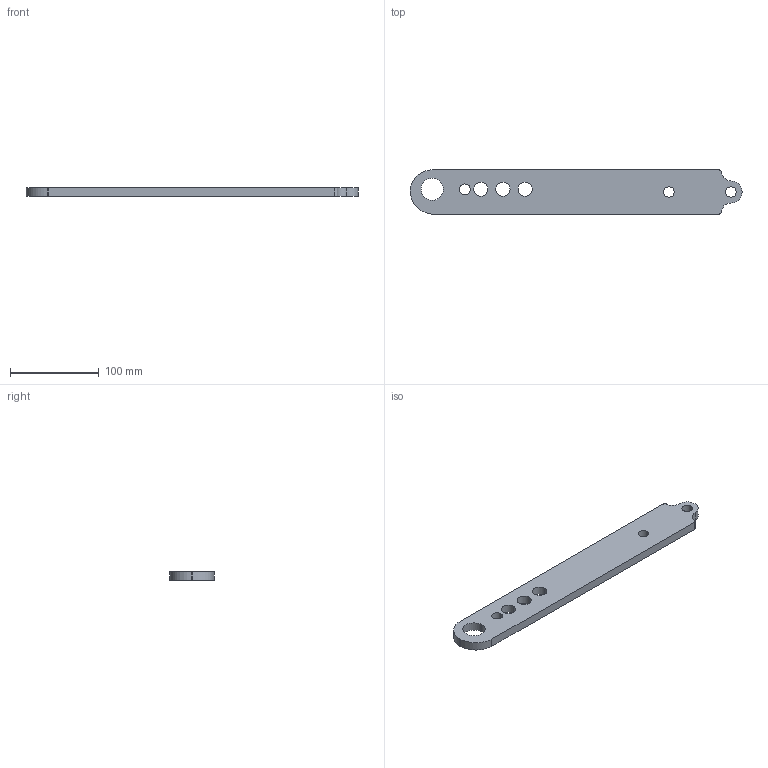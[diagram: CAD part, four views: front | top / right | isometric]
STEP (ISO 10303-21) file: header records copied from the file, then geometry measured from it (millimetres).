
FILE_DESCRIPTION (( 'STEP AP214' ), '1' );
FILE_NAME ('loses Blech.STEP', '2016-12-28T08:43:59', ( '' ), ( '' ), 'SwSTEP 2.0', 'SolidWorks 2016', '' );
FILE_SCHEMA (( 'AUTOMOTIVE_DESIGN' ));
Length unit declared in the file: millimetre
Products named in the file (1): loses Blech
Bounding box: 374.99 x 50 x 10 mm (x, y, z)
Volume: 164204.6 mm3; surface area: 44331.5 mm2
Topology: 1 solids, 1 shells, 29 faces, 81 edges, 54 vertices
Faces by surface type: cylinder 24, plane 4, bspline 1
Entity records: 1027 total; most frequent: DIRECTION 185, CARTESIAN_POINT 174, ORIENTED_EDGE 162, EDGE_CURVE 81, AXIS2_PLACEMENT_3D 77, VERTEX_POINT 54, CIRCLE 48, EDGE_LOOP 43
